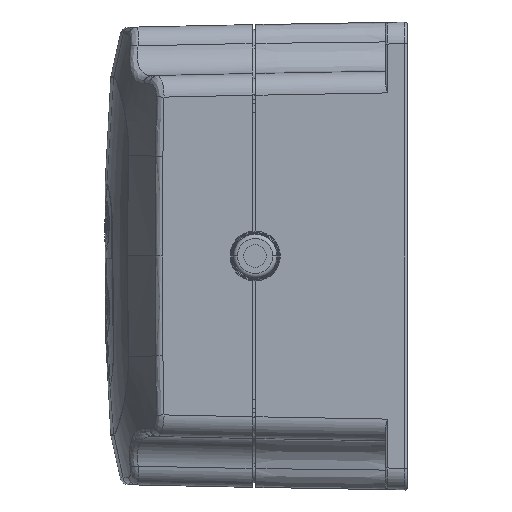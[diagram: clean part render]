
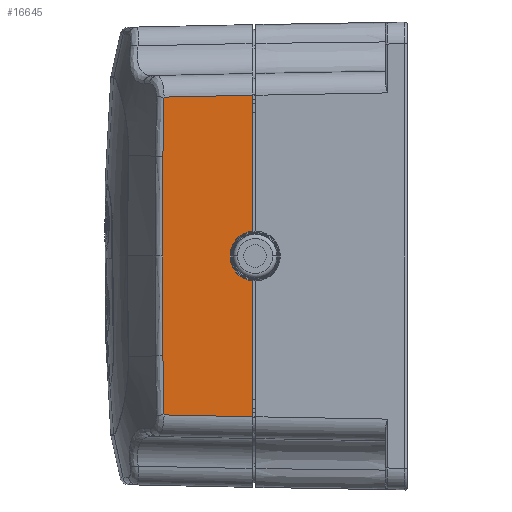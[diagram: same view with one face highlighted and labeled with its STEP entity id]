
A CAD part, left-side view. The second image highlights one B-rep face of the part: STEP entity #16645.
In plain terms, the highlighted planar face has unit normal (-1, 0.021, 0).
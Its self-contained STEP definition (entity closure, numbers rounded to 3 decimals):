
#278=CARTESIAN_POINT('',(-76.498,35.702,3.938));
#279=CARTESIAN_POINT('',(-76.49,36.075,3.873));
#280=CARTESIAN_POINT('',(-76.472,36.774,3.641));
#281=CARTESIAN_POINT('',(-76.454,37.715,3.01));
#282=CARTESIAN_POINT('',(-76.438,38.437,2.146));
#283=CARTESIAN_POINT('',(-76.429,38.896,1.116));
#284=CARTESIAN_POINT('',(-76.426,39.052,
0.));
#285=CARTESIAN_POINT('',(-76.429,38.896,-1.116));
#286=CARTESIAN_POINT('',(-76.438,38.437,-2.146));
#287=CARTESIAN_POINT('',(-76.454,37.715,-3.01));
#288=CARTESIAN_POINT('',(-76.472,36.774,-3.641));
#289=CARTESIAN_POINT('',(-76.49,36.075,-3.873));
#290=CARTESIAN_POINT('',(-76.498,35.702,-3.938));
#353=DIRECTION('',(0.,0.,1.));
#354=VECTOR('',#353,33.059);
#355=CARTESIAN_POINT('',(-76.496,35.704,-36.997));
#356=LINE('',#355,#354);
#525=DIRECTION('',(0.,0.,1.));
#526=VECTOR('',#525,33.059);
#527=CARTESIAN_POINT('',(-76.498,35.702,3.938));
#528=LINE('',#527,#526);
#534=DIRECTION('',(0.021,1.,0.021));
#535=VECTOR('',#534,20.268);
#536=CARTESIAN_POINT('',(-76.496,35.704,-36.997));
#537=LINE('',#536,#535);
#538=CARTESIAN_POINT('',(-76.071,55.964,-36.572));
#539=CARTESIAN_POINT('',(-76.068,56.102,-32.044));
#540=CARTESIAN_POINT('',(-76.067,56.168,-27.511));
#541=CARTESIAN_POINT('',(-76.066,56.224,-22.978));
#543=CARTESIAN_POINT('',(-76.066,56.224,-22.978));
#544=CARTESIAN_POINT('',(-76.065,56.255,-15.319));
#545=CARTESIAN_POINT('',(-76.065,56.258,-7.66));
#546=CARTESIAN_POINT('',(-76.065,56.258,0.));
#548=CARTESIAN_POINT('',(-76.065,56.258,0.));
#549=CARTESIAN_POINT('',(-76.065,56.258,7.66));
#550=CARTESIAN_POINT('',(-76.065,56.255,15.319));
#551=CARTESIAN_POINT('',(-76.066,56.224,22.977));
#553=CARTESIAN_POINT('',(-76.066,56.224,22.977));
#554=CARTESIAN_POINT('',(-76.067,56.168,27.51));
#555=CARTESIAN_POINT('',(-76.068,56.102,32.044));
#556=CARTESIAN_POINT('',(-76.071,55.964,36.572));
#558=DIRECTION('',(-0.021,-1.,0.021));
#559=VECTOR('',#558,20.268);
#560=CARTESIAN_POINT('',(-76.071,55.964,36.572));
#561=LINE('',#560,#559);
#1295=CARTESIAN_POINT('',(-76.496,35.704,36.997));
#1309=CARTESIAN_POINT('',(-76.071,55.964,36.572));
#14160=VERTEX_POINT('',#1309);
#14162=VERTEX_POINT('',#1295);
#14302=VERTEX_POINT('',#553);
#14303=CARTESIAN_POINT('',(-76.496,35.704,
-36.997));
#14304=CARTESIAN_POINT('',(-76.071,55.964,
-36.572));
#14305=VERTEX_POINT('',#14303);
#14306=VERTEX_POINT('',#14304);
#14307=VERTEX_POINT('',#541);
#14308=VERTEX_POINT('',#546);
#15939=VERTEX_POINT('',#278);
#15940=VERTEX_POINT('',#290);
#16623=CARTESIAN_POINT('',(-76.28,45.982,
0.));
#16624=DIRECTION('',(1.,-0.021,0.));
#16625=DIRECTION('',(0.,0.,1.));
#16626=AXIS2_PLACEMENT_3D('',#16623,#16624,#16625);
#16627=PLANE('',#16626);
#16628=ORIENTED_EDGE('',*,*,#16466,.T.);
#16629=ORIENTED_EDGE('',*,*,#16503,.F.);
#16631=ORIENTED_EDGE('',*,*,#16630,.T.);
#16633=ORIENTED_EDGE('',*,*,#16632,.T.);
#16635=ORIENTED_EDGE('',*,*,#16634,.T.);
#16637=ORIENTED_EDGE('',*,*,#16636,.T.);
#16639=ORIENTED_EDGE('',*,*,#16638,.T.);
#16641=ORIENTED_EDGE('',*,*,#16640,.T.);
#16642=ORIENTED_EDGE('',*,*,#16615,.F.);
#16643=EDGE_LOOP('',(#16628,#16629,#16631,#16633,#16635,#16637,#16639,#16641,
#16642));
#16644=FACE_OUTER_BOUND('',#16643,.F.);
#16645=ADVANCED_FACE('',(#16644),#16627,.F.);
#291=B_SPLINE_CURVE_WITH_KNOTS('',3,(#278,#279,#280,#281,#282,#283,#284,#285,
#286,#287,#288,#289,#290),.UNSPECIFIED.,.F.,.F.,(4,1,1,1,1,1,1,1,1,1,4),(0.,
0.1,0.2,0.3,0.4,0.5,0.6,0.7,0.8,0.9,1.),.UNSPECIFIED.);
#542=B_SPLINE_CURVE_WITH_KNOTS('',3,(#538,#539,#540,#541),.UNSPECIFIED.,.F.,.F.,
(4,4),(0.,1.),.UNSPECIFIED.);
#547=B_SPLINE_CURVE_WITH_KNOTS('',3,(#543,#544,#545,#546),.UNSPECIFIED.,.F.,.F.,
(4,4),(0.,1.),.UNSPECIFIED.);
#552=B_SPLINE_CURVE_WITH_KNOTS('',3,(#548,#549,#550,#551),.UNSPECIFIED.,.F.,.F.,
(4,4),(0.,1.),.UNSPECIFIED.);
#557=B_SPLINE_CURVE_WITH_KNOTS('',3,(#553,#554,#555,#556),.UNSPECIFIED.,.F.,.F.,
(4,4),(0.,1.),.UNSPECIFIED.);
#16466=EDGE_CURVE('',#15939,#15940,#291,.T.);
#16503=EDGE_CURVE('',#14305,#15940,#356,.T.);
#16615=EDGE_CURVE('',#15939,#14162,#528,.T.);
#16630=EDGE_CURVE('',#14305,#14306,#537,.T.);
#16632=EDGE_CURVE('',#14306,#14307,#542,.T.);
#16634=EDGE_CURVE('',#14307,#14308,#547,.T.);
#16636=EDGE_CURVE('',#14308,#14302,#552,.T.);
#16638=EDGE_CURVE('',#14302,#14160,#557,.T.);
#16640=EDGE_CURVE('',#14160,#14162,#561,.T.);
